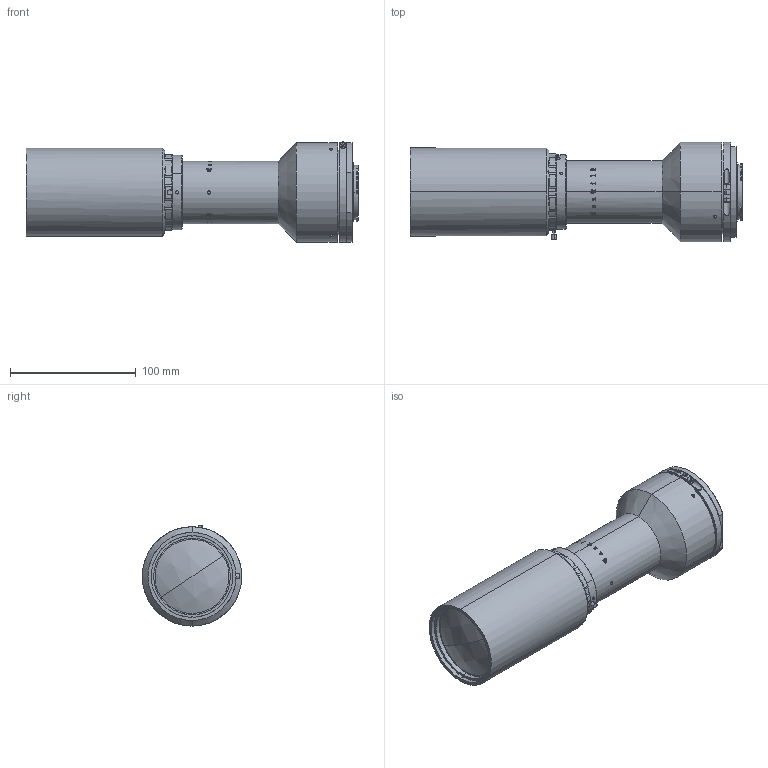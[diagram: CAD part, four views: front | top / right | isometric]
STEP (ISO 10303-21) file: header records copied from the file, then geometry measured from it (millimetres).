
FILE_DESCRIPTION (( 'STEP AP203' ), '1' );
FILE_NAME ('XF-PTL04538-F-VI.STEP', '2020-05-09T05:51:24', ( 'puyufan' ), ( '' ), 'SwSTEP 2.0', 'SolidWorks 2014', '' );
FILE_SCHEMA (( 'CONFIG_CONTROL_DESIGN' ));
Length unit declared in the file: millimetre
Products named in the file (1): XF-PTL04538-F-VI
Bounding box: 263.96 x 79 x 79.75 mm (x, y, z)
Volume: 848751.5 mm3; surface area: 85128.2 mm2
Topology: 2 solids, 10 shells, 716 faces, 1903 edges, 1251 vertices
Faces by surface type: plane 296, cylinder 203, bspline 148, cone 47, torus 20, sphere 2
Entity records: 42627 total; most frequent: CARTESIAN_POINT 25937, ORIENTED_EDGE 3802, DIRECTION 2951, EDGE_CURVE 1901, VERTEX_POINT 1251, AXIS2_PLACEMENT_3D 1155, EDGE_LOOP 782, ADVANCED_FACE 716
